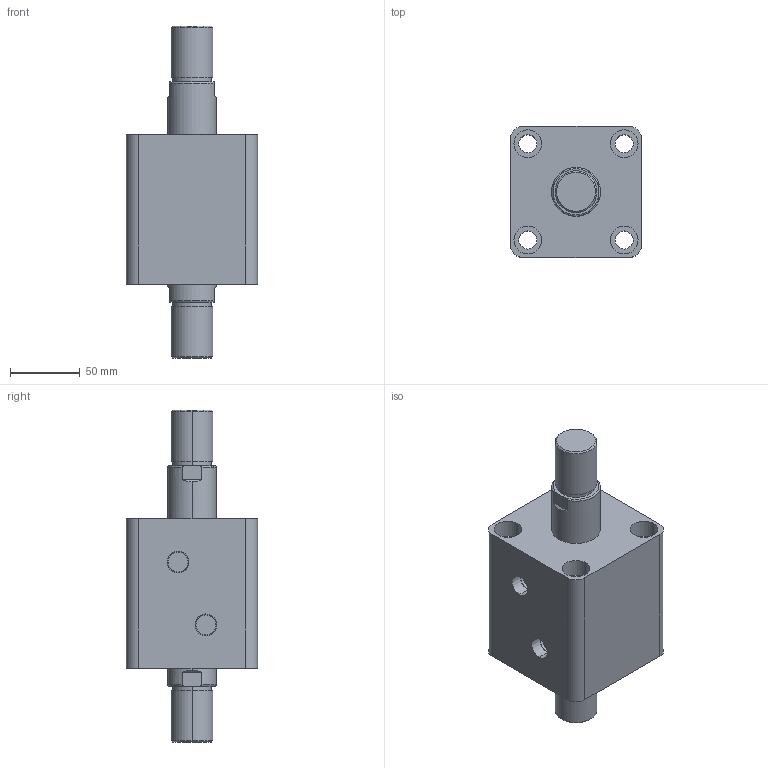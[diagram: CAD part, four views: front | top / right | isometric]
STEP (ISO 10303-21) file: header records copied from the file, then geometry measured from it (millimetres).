
FILE_DESCRIPTION (( 'STEP AP203' ), '1' );
FILE_NAME ('HTB-SW63-25W.STEP', '2019-10-07T10:03:16', ( '微软用户' ), ( '微软中国' ), 'SwSTEP 2.0', 'SolidWorks 2012', '' );
FILE_SCHEMA (( 'CONFIG_CONTROL_DESIGN' ));
Length unit declared in the file: millimetre
Products named in the file (3): HTB-SW63-25W; HTB-SW63-25W活塞杆; HTB-SW63-25掛极
Assembly tree (2 placements, depth 2):
  HTB-SW63-25W
    HTB-SW63-25掛极
    HTB-SW63-25W活塞杆
Bounding box: 94 x 94 x 238 mm (x, y, z)
Volume: 909058.5 mm3; surface area: 126620.4 mm2
Topology: 2 solids, 2 shells, 108 faces, 240 edges, 156 vertices
Faces by surface type: cylinder 52, plane 36, torus 12, cone 8
Entity records: 3465 total; most frequent: CARTESIAN_POINT 645, DIRECTION 586, ORIENTED_EDGE 480, AXIS2_PLACEMENT_3D 249, EDGE_CURVE 240, VERTEX_POINT 156, EDGE_LOOP 138, CIRCLE 136
